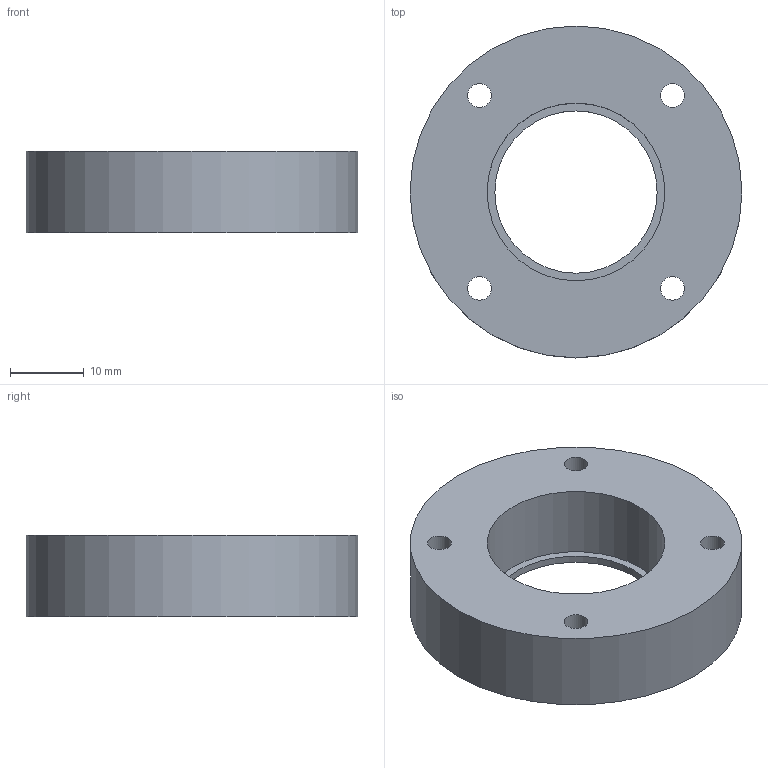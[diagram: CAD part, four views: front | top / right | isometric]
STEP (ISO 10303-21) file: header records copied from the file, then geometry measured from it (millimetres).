
FILE_DESCRIPTION(/* description */ (''),/* implementation_level */ '2;1');
FILE_NAME(/* name */ '3-18-2 Connector top.step',/* time_stamp */ '2025-05-10T22:05:04+02:00',/* author */ (''),/* organization */ (''),/* preprocessor_version */ 'ST-DEVELOPER v20.1',/* originating_system */ 'Autodesk Translation Framework v14.4.0.0',/* authorisation */ '');
FILE_SCHEMA (('AUTOMOTIVE_DESIGN { 1 0 10303 214 3 1 1 }'));
Length unit declared in the file: millimetre
Products named in the file (1): 3-18-2 Connector top
Bounding box: 45 x 45 x 11 mm (x, y, z)
Volume: 11954 mm3; surface area: 5245.4 mm2
Topology: 1 solids, 1 shells, 18 faces, 37 edges, 22 vertices
Faces by surface type: cylinder 11, cone 4, plane 3
Full cylindrical faces by diameter (mm): 3.2 x4, 6 x4, 22 x1, 24.1 x1, 45 x1
Entity records: 539 total; most frequent: DIRECTION 97, CARTESIAN_POINT 78, ORIENTED_EDGE 74, AXIS2_PLACEMENT_3D 41, EDGE_CURVE 37, EDGE_LOOP 29, CIRCLE 22, VERTEX_POINT 22
